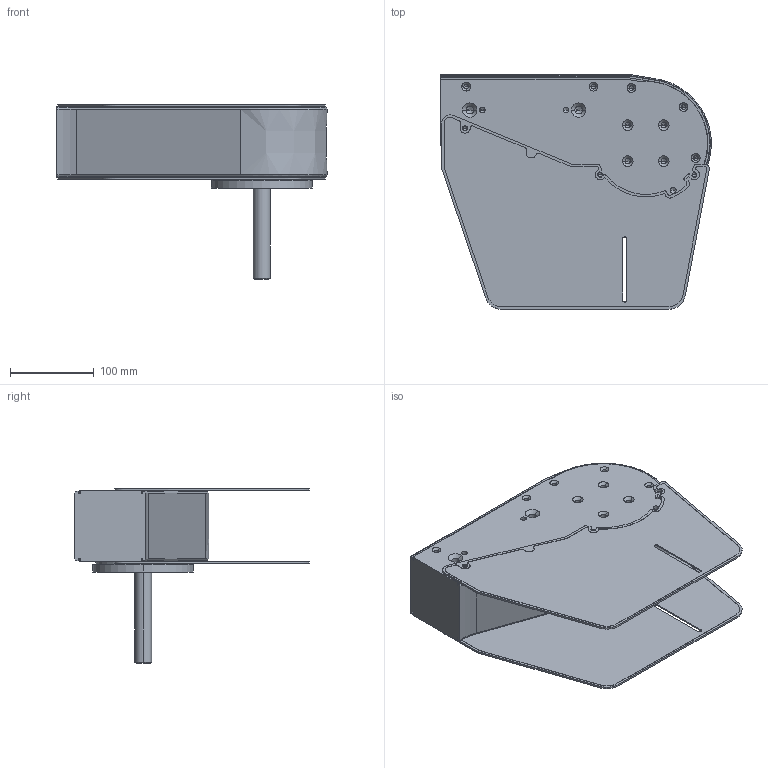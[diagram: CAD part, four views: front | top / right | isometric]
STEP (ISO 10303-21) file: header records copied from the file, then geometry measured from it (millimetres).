
FILE_DESCRIPTION (( 'STEP AP214' ), '1' );
FILE_NAME ('FMDD 85 0L.step', '2017-04-07T11:08:18', ( '' ), ( '' ), 'SwSTEP 2.0', 'SolidWorks 2016', '' );
FILE_SCHEMA (( 'AUTOMOTIVE_DESIGN' ));
Length unit declared in the file: millimetre
Products named in the file (1): FMDD 85 0L
Bounding box: 322.68 x 280.07 x 208.8 mm (x, y, z)
Volume: 3630502.5 mm3; surface area: 382589.5 mm2
Topology: 2 solids, 2 shells, 606 faces, 1604 edges, 980 vertices
Faces by surface type: cylinder 281, plane 170, cone 140, bspline 11, torus 4
Entity records: 22248 total; most frequent: CARTESIAN_POINT 4310, DIRECTION 3322, ORIENTED_EDGE 3056, EDGE_CURVE 1528, AXIS2_PLACEMENT_3D 1241, VERTEX_POINT 980, VECTOR 840, LINE 840
